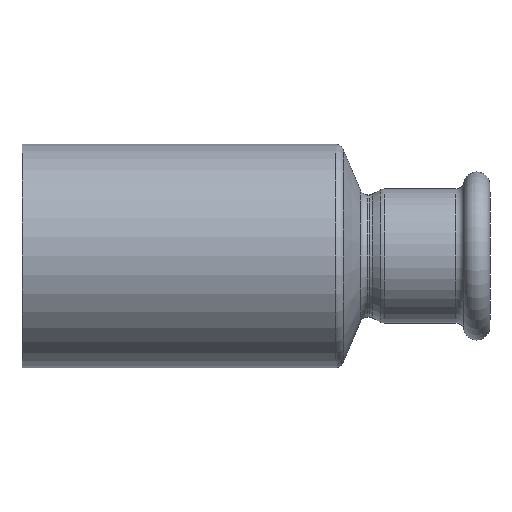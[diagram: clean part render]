
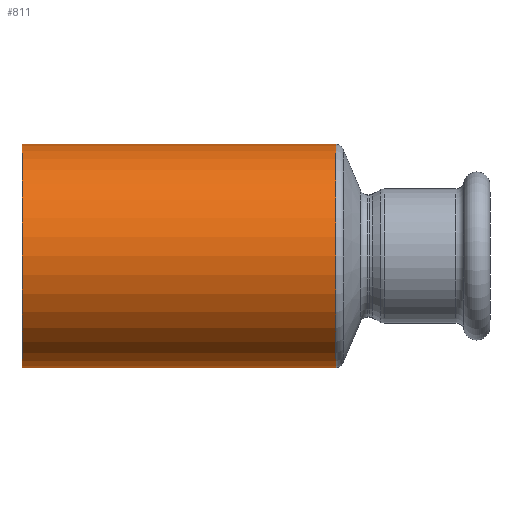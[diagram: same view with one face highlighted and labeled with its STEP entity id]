
A CAD part, front view. The second image highlights one B-rep face of the part: STEP entity #811.
In plain terms, the highlighted cylindrical face has radius 21 mm (diameter 42 mm), a partial arc.
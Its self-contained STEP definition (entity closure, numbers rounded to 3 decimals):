
#29 = EDGE_CURVE ( 'NONE', #824, #279, #1199, .T. ) ;
#62 = EDGE_CURVE ( 'NONE', #662, #154, #1078, .T. ) ;
#147 = DIRECTION ( 'NONE',  ( -1., 0., 0. ) ) ;
#154 = VERTEX_POINT ( 'NONE', #661 ) ;
#155 = CARTESIAN_POINT ( 'NONE',  ( -53.513, 0., 21. ) ) ;
#164 = CARTESIAN_POINT ( 'NONE',  ( 16.512, 0., -21. ) ) ;
#189 = VECTOR ( 'NONE', #147, 1000. ) ;
#200 = DIRECTION ( 'NONE',  ( -1., 0., 0. ) ) ;
#242 = AXIS2_PLACEMENT_3D ( 'NONE', #539, #200, #943 ) ;
#252 = CYLINDRICAL_SURFACE ( 'NONE', #242, 21. ) ;
#273 = CARTESIAN_POINT ( 'NONE',  ( -53.513, 0., -21. ) ) ;
#275 = ORIENTED_EDGE ( 'NONE', *, *, #358, .F. ) ;
#279 = VERTEX_POINT ( 'NONE', #792 ) ;
#334 = EDGE_LOOP ( 'NONE', ( #275, #347, #1213, #476 ) ) ;
#347 = ORIENTED_EDGE ( 'NONE', *, *, #62, .T. ) ;
#358 = EDGE_CURVE ( 'NONE', #662, #824, #998, .T. ) ;
#391 = CARTESIAN_POINT ( 'NONE',  ( -42.488, 0., 0. ) ) ;
#441 = LINE ( 'NONE', #155, #189 ) ;
#476 = ORIENTED_EDGE ( 'NONE', *, *, #29, .F. ) ;
#539 = CARTESIAN_POINT ( 'NONE',  ( -53.513, 0., 0. ) ) ;
#569 = CARTESIAN_POINT ( 'NONE',  ( 16.512, 0., 0. ) ) ;
#661 = CARTESIAN_POINT ( 'NONE',  ( 16.512, 0., 21. ) ) ;
#662 = VERTEX_POINT ( 'NONE', #164 ) ;
#672 = DIRECTION ( 'NONE',  ( 0., 0., -1. ) ) ;
#763 = DIRECTION ( 'NONE',  ( -1., 0., 0. ) ) ;
#792 = CARTESIAN_POINT ( 'NONE',  ( -42.488, 0., 21. ) ) ;
#810 = DIRECTION ( 'NONE',  ( -1., 0., 0. ) ) ;
#811 = ADVANCED_FACE ( 'NONE', ( #1007 ), #252, .T. ) ;
#824 = VERTEX_POINT ( 'NONE', #1208 ) ;
#876 = VECTOR ( 'NONE', #810, 1000. ) ;
#943 = DIRECTION ( 'NONE',  ( 0., 0., 1. ) ) ;
#998 = LINE ( 'NONE', #273, #876 ) ;
#1007 = FACE_OUTER_BOUND ( 'NONE', #334, .T. ) ;
#1034 = DIRECTION ( 'NONE',  ( 0., 0., 1. ) ) ;
#1047 = DIRECTION ( 'NONE',  ( -1., 0., 0. ) ) ;
#1078 = CIRCLE ( 'NONE', #1157, 21. ) ;
#1101 = AXIS2_PLACEMENT_3D ( 'NONE', #391, #1047, #1034 ) ;
#1118 = EDGE_CURVE ( 'NONE', #154, #279, #441, .T. ) ;
#1157 = AXIS2_PLACEMENT_3D ( 'NONE', #569, #763, #672 ) ;
#1199 = CIRCLE ( 'NONE', #1101, 21. ) ;
#1208 = CARTESIAN_POINT ( 'NONE',  ( -42.488, 0., -21. ) ) ;
#1213 = ORIENTED_EDGE ( 'NONE', *, *, #1118, .T. ) ;
